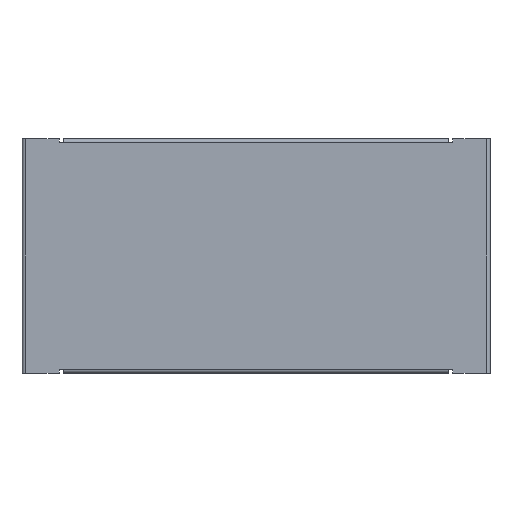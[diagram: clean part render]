
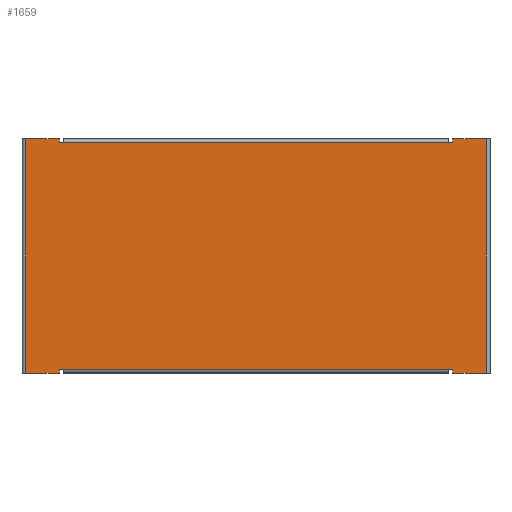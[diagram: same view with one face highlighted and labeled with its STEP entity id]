
A CAD part, front view. The second image highlights one B-rep face of the part: STEP entity #1659.
In plain terms, the highlighted planar face has unit normal (0, -1, 0).
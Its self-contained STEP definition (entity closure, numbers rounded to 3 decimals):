
#137=DIRECTION('',(-1.,0.,0.));
#138=VECTOR('',#137,180.527);
#139=CARTESIAN_POINT('',(90.263,0.,53.263));
#140=LINE('',#139,#138);
#141=DIRECTION('',(0.,0.,1.));
#142=VECTOR('',#141,1.7);
#143=CARTESIAN_POINT('',(92.263,0.,-54.963));
#144=LINE('',#143,#142);
#145=DIRECTION('',(-1.,0.,0.));
#146=VECTOR('',#145,2.);
#147=CARTESIAN_POINT('',(-90.263,0.,-53.263));
#148=LINE('',#147,#146);
#149=DIRECTION('',(0.,0.,-1.));
#150=VECTOR('',#149,1.7);
#151=CARTESIAN_POINT('',(-92.263,0.,54.963));
#152=LINE('',#151,#150);
#153=DIRECTION('',(1.,0.,0.));
#154=VECTOR('',#153,2.);
#155=CARTESIAN_POINT('',(90.263,0.,53.263));
#156=LINE('',#155,#154);
#157=DIRECTION('',(0.,0.,1.));
#158=VECTOR('',#157,109.927);
#159=CARTESIAN_POINT('',(108.,0.,-54.963));
#160=LINE('',#159,#158);
#187=DIRECTION('',(1.,0.,0.));
#188=VECTOR('',#187,15.737);
#189=CARTESIAN_POINT('',(92.263,0.,-54.963));
#190=LINE('',#189,#188);
#210=DIRECTION('',(-1.,0.,0.));
#211=VECTOR('',#210,15.737);
#212=CARTESIAN_POINT('',(108.,0.,54.963));
#213=LINE('',#212,#211);
#239=DIRECTION('',(0.,0.,-1.));
#240=VECTOR('',#239,1.7);
#241=CARTESIAN_POINT('',(92.263,0.,54.963));
#242=LINE('',#241,#240);
#363=DIRECTION('',(-1.,0.,0.));
#364=VECTOR('',#363,15.737);
#365=CARTESIAN_POINT('',(-92.263,0.,54.963));
#366=LINE('',#365,#364);
#371=DIRECTION('',(0.,0.,-1.));
#372=VECTOR('',#371,109.927);
#373=CARTESIAN_POINT('',(-108.,0.,54.963));
#374=LINE('',#373,#372);
#380=DIRECTION('',(1.,0.,0.));
#381=VECTOR('',#380,15.737);
#382=CARTESIAN_POINT('',(-108.,0.,-54.963));
#383=LINE('',#382,#381);
#405=DIRECTION('',(0.,0.,1.));
#406=VECTOR('',#405,1.7);
#407=CARTESIAN_POINT('',(-92.263,0.,-54.963));
#408=LINE('',#407,#406);
#527=DIRECTION('',(1.,0.,0.));
#528=VECTOR('',#527,180.527);
#529=CARTESIAN_POINT('',(-90.263,0.,-53.263));
#530=LINE('',#529,#528);
#557=DIRECTION('',(1.,0.,0.));
#558=VECTOR('',#557,2.);
#559=CARTESIAN_POINT('',(90.263,0.,-53.263));
#560=LINE('',#559,#558);
#699=DIRECTION('',(-1.,0.,0.));
#700=VECTOR('',#699,2.);
#701=CARTESIAN_POINT('',(-90.263,0.,53.263));
#702=LINE('',#701,#700);
#1251=CARTESIAN_POINT('',(-90.263,0.,-53.263));
#1252=VERTEX_POINT('',#1251);
#1255=CARTESIAN_POINT('',(90.263,0.,-53.263));
#1256=VERTEX_POINT('',#1255);
#1257=CARTESIAN_POINT('',(108.,0.,-54.963));
#1258=CARTESIAN_POINT('',(108.,0.,54.963));
#1259=VERTEX_POINT('',#1257);
#1260=VERTEX_POINT('',#1258);
#1261=CARTESIAN_POINT('',(92.263,0.,-54.963));
#1262=VERTEX_POINT('',#1261);
#1263=CARTESIAN_POINT('',(92.263,0.,-53.263));
#1264=VERTEX_POINT('',#1263);
#1265=CARTESIAN_POINT('',(-92.263,0.,-53.263));
#1266=VERTEX_POINT('',#1265);
#1267=CARTESIAN_POINT('',(-92.263,0.,-54.963));
#1268=VERTEX_POINT('',#1267);
#1269=CARTESIAN_POINT('',(-108.,0.,-54.963));
#1270=VERTEX_POINT('',#1269);
#1271=CARTESIAN_POINT('',(-108.,0.,54.963));
#1272=VERTEX_POINT('',#1271);
#1273=CARTESIAN_POINT('',(-92.263,0.,54.963));
#1274=VERTEX_POINT('',#1273);
#1275=CARTESIAN_POINT('',(-92.263,0.,53.263));
#1276=VERTEX_POINT('',#1275);
#1277=CARTESIAN_POINT('',(-90.263,0.,53.263));
#1278=VERTEX_POINT('',#1277);
#1279=CARTESIAN_POINT('',(90.263,0.,53.263));
#1280=VERTEX_POINT('',#1279);
#1281=CARTESIAN_POINT('',(92.263,0.,53.263));
#1282=VERTEX_POINT('',#1281);
#1283=CARTESIAN_POINT('',(92.263,0.,54.963));
#1284=VERTEX_POINT('',#1283);
#1621=CARTESIAN_POINT('',(-110.,0.,55.));
#1622=DIRECTION('',(0.,1.,0.));
#1623=DIRECTION('',(0.,0.,1.));
#1624=AXIS2_PLACEMENT_3D('',#1621,#1622,#1623);
#1625=PLANE('',#1624);
#1627=ORIENTED_EDGE('',*,*,#1626,.F.);
#1629=ORIENTED_EDGE('',*,*,#1628,.F.);
#1631=ORIENTED_EDGE('',*,*,#1630,.T.);
#1633=ORIENTED_EDGE('',*,*,#1632,.F.);
#1635=ORIENTED_EDGE('',*,*,#1634,.F.);
#1637=ORIENTED_EDGE('',*,*,#1636,.T.);
#1639=ORIENTED_EDGE('',*,*,#1638,.F.);
#1641=ORIENTED_EDGE('',*,*,#1640,.F.);
#1643=ORIENTED_EDGE('',*,*,#1642,.F.);
#1645=ORIENTED_EDGE('',*,*,#1644,.F.);
#1647=ORIENTED_EDGE('',*,*,#1646,.T.);
#1649=ORIENTED_EDGE('',*,*,#1648,.F.);
#1650=ORIENTED_EDGE('',*,*,#1616,.F.);
#1652=ORIENTED_EDGE('',*,*,#1651,.T.);
#1654=ORIENTED_EDGE('',*,*,#1653,.F.);
#1656=ORIENTED_EDGE('',*,*,#1655,.F.);
#1657=EDGE_LOOP('',(#1627,#1629,#1631,#1633,#1635,#1637,#1639,#1641,#1643,#1645,
#1647,#1649,#1650,#1652,#1654,#1656));
#1658=FACE_OUTER_BOUND('',#1657,.F.);
#1659=ADVANCED_FACE('',(#1658),#1625,.F.);
#1616=EDGE_CURVE('',#1280,#1278,#140,.T.);
#1626=EDGE_CURVE('',#1259,#1260,#160,.T.);
#1628=EDGE_CURVE('',#1262,#1259,#190,.T.);
#1630=EDGE_CURVE('',#1262,#1264,#144,.T.);
#1632=EDGE_CURVE('',#1256,#1264,#560,.T.);
#1634=EDGE_CURVE('',#1252,#1256,#530,.T.);
#1636=EDGE_CURVE('',#1252,#1266,#148,.T.);
#1638=EDGE_CURVE('',#1268,#1266,#408,.T.);
#1640=EDGE_CURVE('',#1270,#1268,#383,.T.);
#1642=EDGE_CURVE('',#1272,#1270,#374,.T.);
#1644=EDGE_CURVE('',#1274,#1272,#366,.T.);
#1646=EDGE_CURVE('',#1274,#1276,#152,.T.);
#1648=EDGE_CURVE('',#1278,#1276,#702,.T.);
#1651=EDGE_CURVE('',#1280,#1282,#156,.T.);
#1653=EDGE_CURVE('',#1284,#1282,#242,.T.);
#1655=EDGE_CURVE('',#1260,#1284,#213,.T.);
